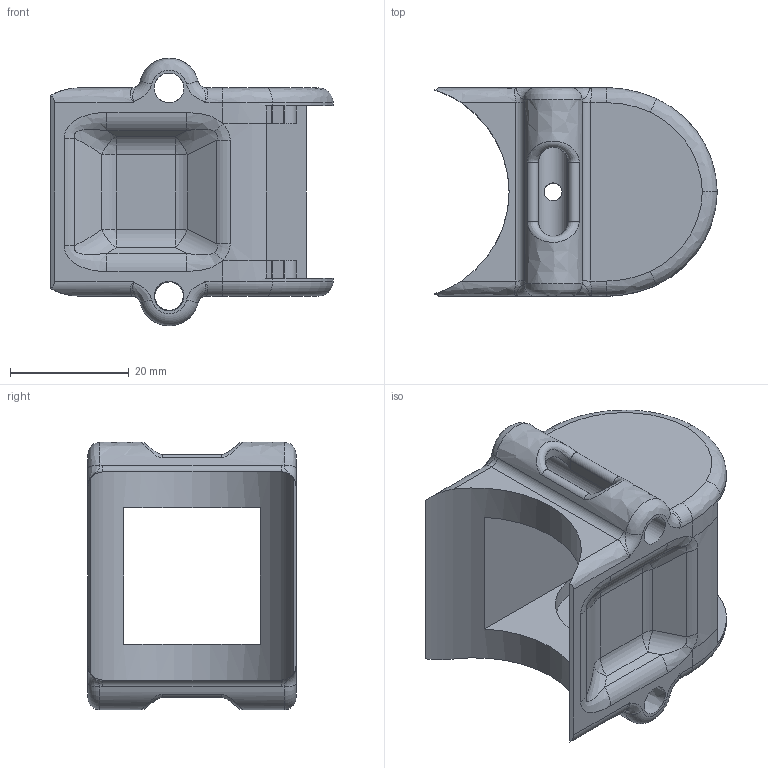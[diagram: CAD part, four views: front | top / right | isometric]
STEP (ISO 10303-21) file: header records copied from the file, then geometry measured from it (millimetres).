
FILE_DESCRIPTION((''),'2;1');
FILE_NAME('D:\Uebbing\KATALOG\3D\PFR\PFR 121\PFR121-KAnschluss abgeschlagen.stp','2009-07-01T13:54:39',('UebbingXP'),(''),'Autodesk Inventor 10','Autodesk Inventor 10','');
FILE_SCHEMA(('AUTOMOTIVE_DESIGN { 1 0 10303 214 1 1 1 1 }'));
Length unit declared in the file: millimetre
Products named in the file (1): PFR121-KAnschluss abgeschlagen
Bounding box: 47.5 x 35 x 45 mm (x, y, z)
Volume: 16650.3 mm3; surface area: 11430.9 mm2
Topology: 1 solids, 1 shells, 177 faces, 456 edges, 270 vertices
Faces by surface type: bspline 97, cylinder 39, plane 35, torus 6
Full cylindrical faces by diameter (mm): 3 x1, 5 x1
Entity records: 16563 total; most frequent: CARTESIAN_POINT 12670, ORIENTED_EDGE 876, DIRECTION 694, EDGE_CURVE 438, VERTEX_POINT 266, AXIS2_PLACEMENT_3D 243, VECTOR 208, LINE 208
